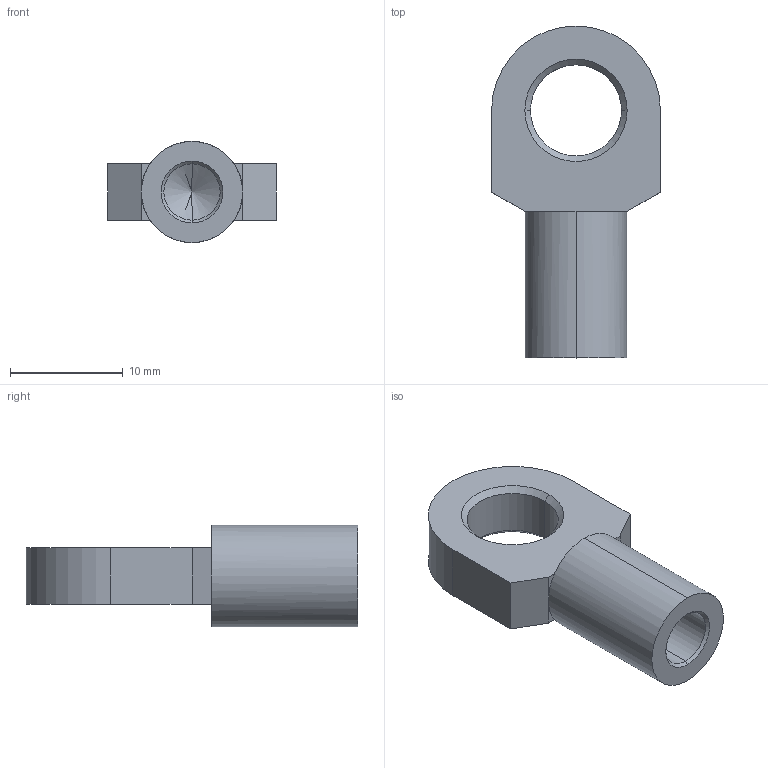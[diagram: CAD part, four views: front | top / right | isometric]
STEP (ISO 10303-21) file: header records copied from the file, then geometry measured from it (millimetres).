
FILE_DESCRIPTION (( 'STEP AP214' ), '1' );
FILE_NAME ('18.06E2STL22.STEP', '2017-11-16T15:26:46', ( '' ), ( '' ), 'SwSTEP 2.0', 'SolidWorks 2016', '' );
FILE_SCHEMA (( 'AUTOMOTIVE_DESIGN' ));
Length unit declared in the file: millimetre
Products named in the file (1): 18.06E2STL22
Bounding box: 15 x 29.5 x 9 mm (x, y, z)
Volume: 1427.2 mm3; surface area: 1299.9 mm2
Topology: 1 solids, 1 shells, 28 faces, 64 edges, 37 vertices
Faces by surface type: plane 13, cone 8, cylinder 7
Entity records: 806 total; most frequent: DIRECTION 146, CARTESIAN_POINT 128, ORIENTED_EDGE 124, EDGE_CURVE 62, AXIS2_PLACEMENT_3D 55, VERTEX_POINT 37, VECTOR 36, LINE 36
